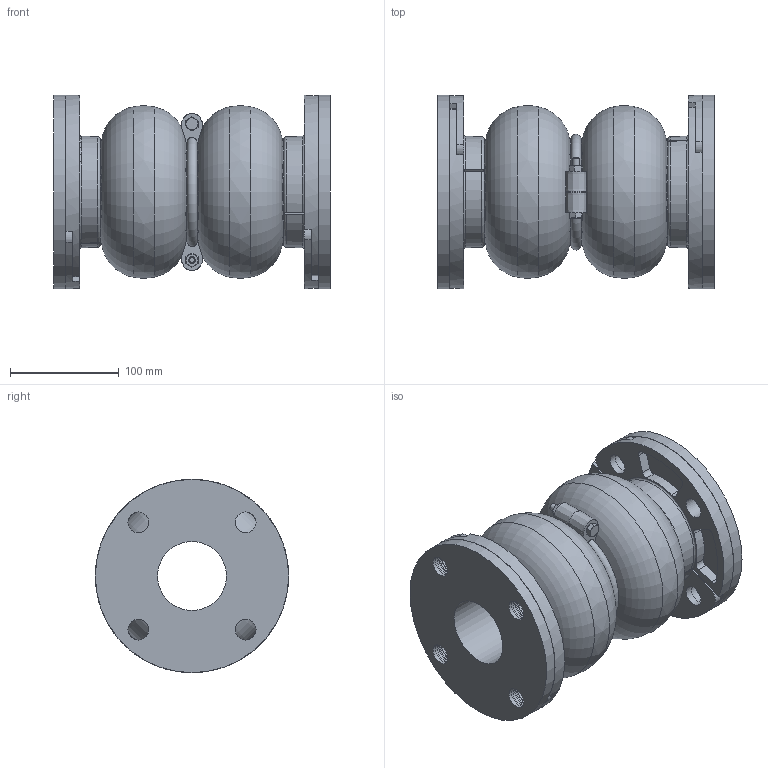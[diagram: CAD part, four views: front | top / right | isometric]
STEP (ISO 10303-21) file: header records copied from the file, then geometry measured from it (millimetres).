
FILE_DESCRIPTION((''),'2;1');
FILE_NAME('C:\2011_Work\Designs\Mercer\Stock Joints\450 Style\452\STEP\Style452 2.5x10.stp','2013-07-26T17:00:44',('mquog'),(''),'Autodesk Inventor 2011','Autodesk Inventor 2011','');
FILE_SCHEMA(('AUTOMOTIVE_DESIGN { 1 0 10303 214 1 1 1 1 }'));
Length unit declared in the file: inch
Products named in the file (6): Style452 2.5x10; 2.5DI450BUR150-1; 2.5_MBR; Hex Nut - Inch 1/4 - 20; Hex Bolt - Inch 1/4-20 UNC - 2; 452 2.5x10
Assembly tree (11 placements, depth 2):
  Style452 2.5x10
    2.5DI450BUR150-1  x4
    2.5_MBR  x2
    Hex Nut - Inch 1/4 - 20  x2
    Hex Bolt - Inch 1/4-20 UNC - 2  x2
    452 2.5x10
Bounding box: 254 x 177.8 x 177.8 mm (x, y, z)
Volume: 2620619.4 mm3; surface area: 2102607.6 mm2
Topology: 41 solids, 41 shells, 540 faces, 1212 edges, 760 vertices
Faces by surface type: cylinder 192, plane 176, bspline 66, torus 58, cone 48
Full cylindrical faces by diameter (mm): 4.978 x2, 6.35 x2, 6.604 x2, 9.525 x4, 11.125 x2, 19.05 x60, 63.5 x3, 69.85 x6, 76.2 x12, 80.264 x6, 84.328 x6, 87.503 x3, 95.25 x6, 171.45 x12, 177.8 x2
Entity records: 12576 total; most frequent: CARTESIAN_POINT 5126, DIRECTION 1503, ORIENTED_EDGE 1072, EDGE_LOOP 739, AXIS2_PLACEMENT_3D 714, EDGE_CURVE 536, VERTEX_POINT 457, CIRCLE 398
